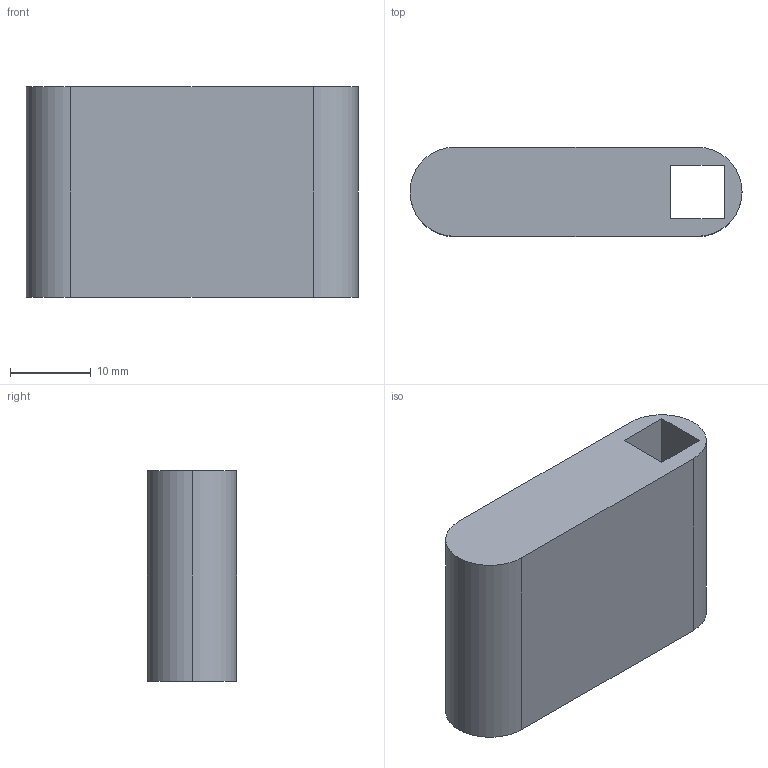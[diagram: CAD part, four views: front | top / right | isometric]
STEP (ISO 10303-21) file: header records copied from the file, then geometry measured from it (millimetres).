
FILE_DESCRIPTION (( 'STEP AP214' ), '1' );
FILE_NAME ('Butterfly_RectangularMagnets.STEP', '2026-02-03T21:49:06', ( '' ), ( '' ), 'SwSTEP 2.0', 'SolidWorks 2025', '' );
FILE_SCHEMA (( 'AUTOMOTIVE_DESIGN' ));
Length unit declared in the file: millimetre
Products named in the file (1): Butterfly_RectangularMagnets
Bounding box: 41 x 11 x 26 mm (x, y, z)
Volume: 9918.3 mm3; surface area: 3907.8 mm2
Topology: 1 solids, 1 shells, 11 faces, 27 edges, 18 vertices
Faces by surface type: plane 8, cylinder 3
Entity records: 354 total; most frequent: CARTESIAN_POINT 57, DIRECTION 57, ORIENTED_EDGE 54, EDGE_CURVE 27, VECTOR 21, LINE 21, AXIS2_PLACEMENT_3D 18, VERTEX_POINT 18
